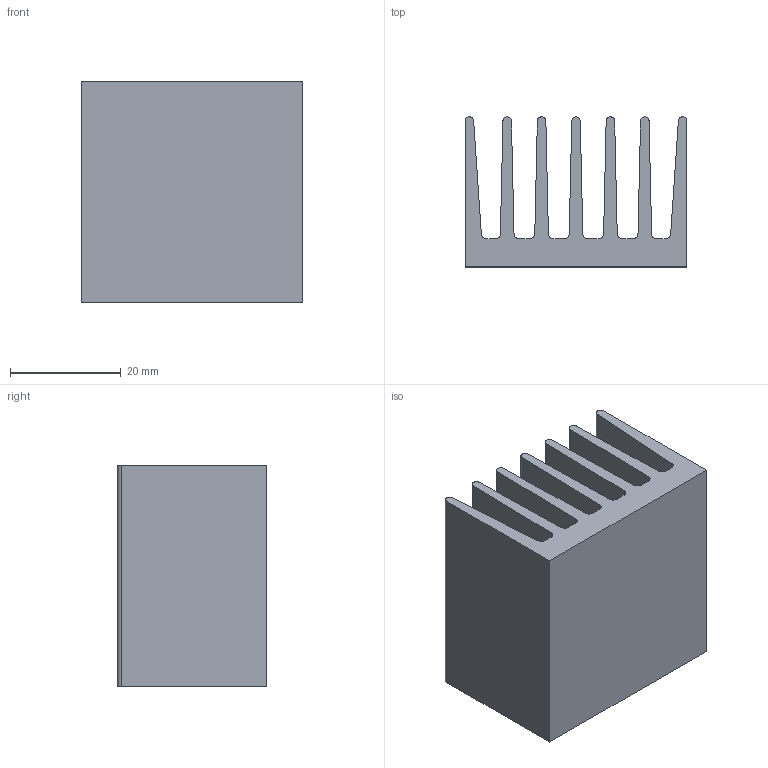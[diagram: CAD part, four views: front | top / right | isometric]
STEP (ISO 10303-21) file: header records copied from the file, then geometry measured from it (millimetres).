
FILE_DESCRIPTION (( 'STEP AP214' ), '1' );
FILE_NAME ('PR313.STEP', '2011-07-19T16:15:45', ( 'Alutronic' ), ( 'Alutronic' ), 'SwSTEP 2.0', 'SolidWorks 2010', '' );
FILE_SCHEMA (( 'AUTOMOTIVE_DESIGN' ));
Length unit declared in the file: millimetre
Products named in the file (1): PR313
Bounding box: 40 x 27 x 40 mm (x, y, z)
Volume: 20792.4 mm3; surface area: 16284.2 mm2
Topology: 1 solids, 1 shells, 56 faces, 162 edges, 108 vertices
Faces by surface type: plane 30, cylinder 26
Entity records: 1892 total; most frequent: DIRECTION 328, CARTESIAN_POINT 327, ORIENTED_EDGE 324, EDGE_CURVE 162, VECTOR 110, LINE 110, AXIS2_PLACEMENT_3D 109, VERTEX_POINT 108
